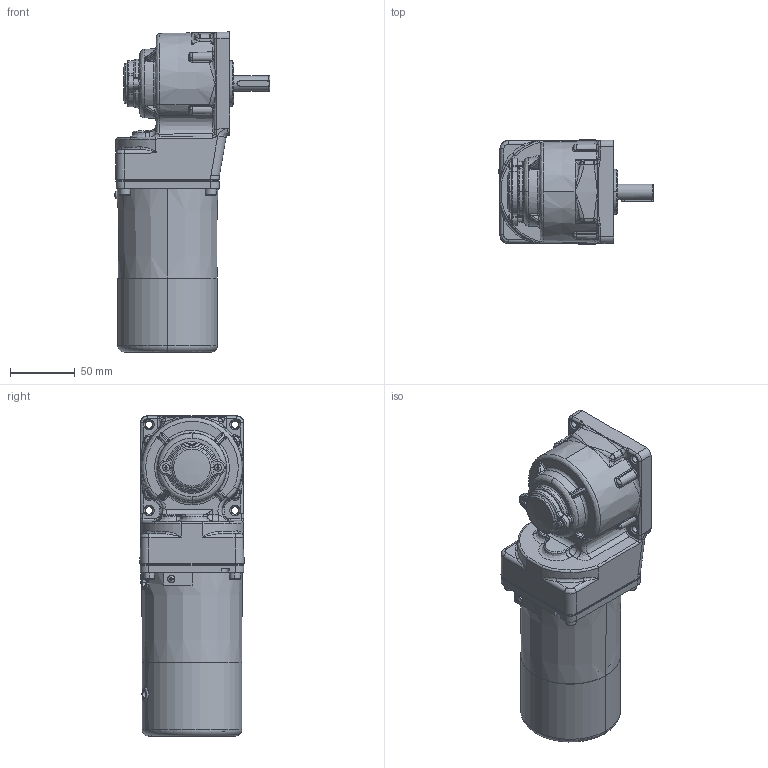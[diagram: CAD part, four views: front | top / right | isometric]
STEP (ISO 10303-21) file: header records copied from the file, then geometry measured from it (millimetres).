
FILE_DESCRIPTION (( 'STEP AP203' ), '1' );
FILE_NAME ('4RK25GN-CM(4GN3RT-180RT)ÐÂ.STEP', '2022-02-21T07:29:42', ( 'PC' ), ( 'Microsoft' ), 'SwSTEP 2.0', 'SolidWorks 2014', '' );
FILE_SCHEMA (( 'CONFIG_CONTROL_DESIGN' ));
Length unit declared in the file: millimetre
Products named in the file (15): cross recessed pan head screws gb_GB_CROSS_SCREWS_TYPE1 M3X6-6  H type-N; PRT0059; 80妗陑怀堤粣; PRT0069; PRT0070; PRT0072; PRT0074; hexagon socket head cap screws gb_GB_FASTENER_SCREWS_HSHCS M4X12-N; PRT0073; 4RK25GN-CM(4GN3RT-180RT)陔; 80壔裔; 80眻褒眊裔; PRT0071; 80綴傷裔; zd-4gn1000rc-504-001-20211209（PROE导出的版本）
Assembly tree (22 placements, depth 2):
  4RK25GN-CM(4GN3RT-180RT)陔
    80眻褒眊裔
    zd-4gn1000rc-504-001-20211209（PROE导出的版本）
    80妗陑怀堤粣
    80壔裔
    80綴傷裔
    hexagon socket head cap screws gb_GB_FASTENER_SCREWS_HSHCS M4X12-N  x4
    cross recessed pan head screws gb_GB_CROSS_SCREWS_TYPE1 M3X6-6  H type-N  x2
    PRT0069  x4
    PRT0059
    PRT0072
    PRT0070
    PRT0074
    PRT0071
    PRT0073  x2
Bounding box: 120.31 x 80.6 x 247.79 mm (x, y, z)
Volume: 731505.2 mm3; surface area: 186617.2 mm2
Topology: 22 solids, 22 shells, 2766 faces, 6314 edges, 3562 vertices
Faces by surface type: cone 1093, cylinder 768, bspline 440, plane 407, torus 58
Entity records: 82652 total; most frequent: CARTESIAN_POINT 45059, ORIENTED_EDGE 8020, DIRECTION 6698, EDGE_CURVE 4010, AXIS2_PLACEMENT_3D 2661, VERTEX_POINT 2355, EDGE_LOOP 1859, ADVANCED_FACE 1750
